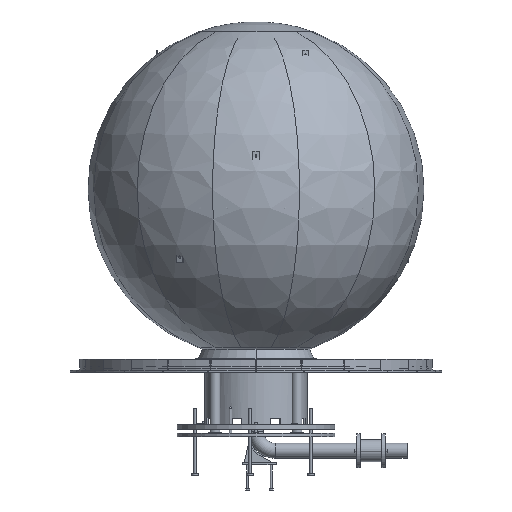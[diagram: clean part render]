
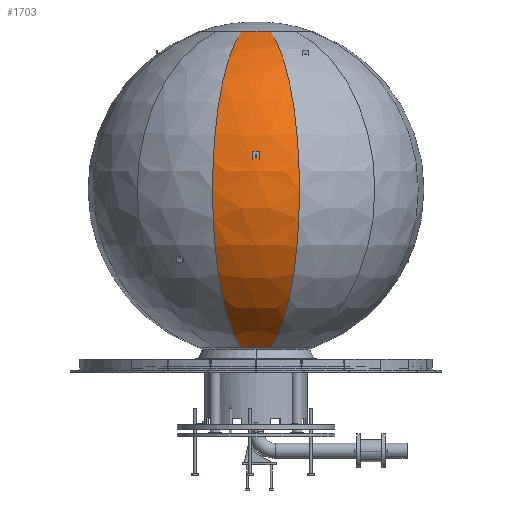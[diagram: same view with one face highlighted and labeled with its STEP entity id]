
A CAD part, front view. The second image highlights one B-rep face of the part: STEP entity #1703.
In plain terms, the highlighted spherical face has radius 1000 mm.
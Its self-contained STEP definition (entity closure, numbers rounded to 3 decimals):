
#1703 = ADVANCED_FACE('',(#1704),#1719,.T.);
#1704 = FACE_BOUND('',#1705,.F.);
#1705 = EDGE_LOOP('',(#1706,#1742,#1771,#1800));
#1706 = ORIENTED_EDGE('',*,*,#1707,.T.);
#1707 = EDGE_CURVE('',#1708,#1710,#1712,.T.);
#1708 = VERTEX_POINT('',#1709);
#1709 = CARTESIAN_POINT('',(-88.521,-330.366,
    1939.693));
#1710 = VERTEX_POINT('',#1711);
#1711 = CARTESIAN_POINT('',(88.521,-330.366,
    1939.693));
#1712 = SURFACE_CURVE('',#1713,(#1718,#1730),.PCURVE_S1.);
#1713 = CIRCLE('',#1714,342.02);
#1714 = AXIS2_PLACEMENT_3D('',#1715,#1716,#1717);
#1715 = CARTESIAN_POINT('',(0.,0.,1939.693));
#1716 = DIRECTION('',(0.,0.,1.));
#1717 = DIRECTION('',(-0.259,-0.966,0.));
#1718 = PCURVE('',#1719,#1724);
#1719 = SPHERICAL_SURFACE('',#1720,1000.);
#1720 = AXIS2_PLACEMENT_3D('',#1721,#1722,#1723);
#1721 = CARTESIAN_POINT('',(0.,0.,1000.
    ));
#1722 = DIRECTION('',(0.,0.,-1.));
#1723 = DIRECTION('',(-0.259,-0.966,0.));
#1724 = DEFINITIONAL_REPRESENTATION('',(#1725),#1729);
#1725 = LINE('',#1726,#1727);
#1726 = CARTESIAN_POINT('',(-0.,-1.222));
#1727 = VECTOR('',#1728,1.);
#1728 = DIRECTION('',(-1.,0.));
#1729 = ( GEOMETRIC_REPRESENTATION_CONTEXT(2) 
PARAMETRIC_REPRESENTATION_CONTEXT() REPRESENTATION_CONTEXT('2D SPACE',''
  ) );
#1730 = PCURVE('',#1731,#1736);
#1731 = CONICAL_SURFACE('',#1732,340.31,0.349);
#1732 = AXIS2_PLACEMENT_3D('',#1733,#1734,#1735);
#1733 = CARTESIAN_POINT('',(0.,0.,1934.994));
#1734 = DIRECTION('',(0.,0.,1.));
#1735 = DIRECTION('',(-0.259,-0.966,0.));
#1736 = DEFINITIONAL_REPRESENTATION('',(#1737),#1741);
#1737 = LINE('',#1738,#1739);
#1738 = CARTESIAN_POINT('',(0.,4.698));
#1739 = VECTOR('',#1740,1.);
#1740 = DIRECTION('',(1.,0.));
#1741 = ( GEOMETRIC_REPRESENTATION_CONTEXT(2) 
PARAMETRIC_REPRESENTATION_CONTEXT() REPRESENTATION_CONTEXT('2D SPACE',''
  ) );
#1742 = ORIENTED_EDGE('',*,*,#1743,.T.);
#1743 = EDGE_CURVE('',#1710,#1744,#1746,.T.);
#1744 = VERTEX_POINT('',#1745);
#1745 = CARTESIAN_POINT('',(88.521,-330.366,
    60.307));
#1746 = SURFACE_CURVE('',#1747,(#1752,#1759),.PCURVE_S1.);
#1747 = CIRCLE('',#1748,1000.);
#1748 = AXIS2_PLACEMENT_3D('',#1749,#1750,#1751);
#1749 = CARTESIAN_POINT('',(0.,0.,1000.)
  );
#1750 = DIRECTION('',(0.966,0.259,0.)
  );
#1751 = DIRECTION('',(0.089,-0.33,0.94)
  );
#1752 = PCURVE('',#1719,#1753);
#1753 = DEFINITIONAL_REPRESENTATION('',(#1754),#1758);
#1754 = LINE('',#1755,#1756);
#1755 = CARTESIAN_POINT('',(-0.524,-1.222));
#1756 = VECTOR('',#1757,1.);
#1757 = DIRECTION('',(-0.,1.));
#1758 = ( GEOMETRIC_REPRESENTATION_CONTEXT(2) 
PARAMETRIC_REPRESENTATION_CONTEXT() REPRESENTATION_CONTEXT('2D SPACE',''
  ) );
#1759 = PCURVE('',#1760,#1765);
#1760 = PLANE('',#1761);
#1761 = AXIS2_PLACEMENT_3D('',#1762,#1763,#1764);
#1762 = CARTESIAN_POINT('',(187.264,-698.88,1000.));
#1763 = DIRECTION('',(0.966,0.259,0.));
#1764 = DIRECTION('',(0.,0.,1.));
#1765 = DEFINITIONAL_REPRESENTATION('',(#1766),#1770);
#1766 = CIRCLE('',#1767,1000.);
#1767 = AXIS2_PLACEMENT_2D('',#1768,#1769);
#1768 = CARTESIAN_POINT('',(0.,-723.533));
#1769 = DIRECTION('',(0.94,0.342));
#1770 = ( GEOMETRIC_REPRESENTATION_CONTEXT(2) 
PARAMETRIC_REPRESENTATION_CONTEXT() REPRESENTATION_CONTEXT('2D SPACE',''
  ) );
#1771 = ORIENTED_EDGE('',*,*,#1772,.F.);
#1772 = EDGE_CURVE('',#1773,#1744,#1775,.T.);
#1773 = VERTEX_POINT('',#1774);
#1774 = CARTESIAN_POINT('',(-88.521,-330.366,
    60.307));
#1775 = SURFACE_CURVE('',#1776,(#1781,#1788),.PCURVE_S1.);
#1776 = CIRCLE('',#1777,342.02);
#1777 = AXIS2_PLACEMENT_3D('',#1778,#1779,#1780);
#1778 = CARTESIAN_POINT('',(0.,0.,60.307));
#1779 = DIRECTION('',(0.,0.,1.));
#1780 = DIRECTION('',(-0.259,-0.966,0.));
#1781 = PCURVE('',#1719,#1782);
#1782 = DEFINITIONAL_REPRESENTATION('',(#1783),#1787);
#1783 = LINE('',#1784,#1785);
#1784 = CARTESIAN_POINT('',(-0.,1.222));
#1785 = VECTOR('',#1786,1.);
#1786 = DIRECTION('',(-1.,0.));
#1787 = ( GEOMETRIC_REPRESENTATION_CONTEXT(2) 
PARAMETRIC_REPRESENTATION_CONTEXT() REPRESENTATION_CONTEXT('2D SPACE',''
  ) );
#1788 = PCURVE('',#1789,#1794);
#1789 = CONICAL_SURFACE('',#1790,342.02,0.349);
#1790 = AXIS2_PLACEMENT_3D('',#1791,#1792,#1793);
#1791 = CARTESIAN_POINT('',(0.,0.,60.307));
#1792 = DIRECTION('',(-0.,-0.,-1.));
#1793 = DIRECTION('',(-0.259,-0.966,0.));
#1794 = DEFINITIONAL_REPRESENTATION('',(#1795),#1799);
#1795 = LINE('',#1796,#1797);
#1796 = CARTESIAN_POINT('',(-0.,-0.));
#1797 = VECTOR('',#1798,1.);
#1798 = DIRECTION('',(-1.,-0.));
#1799 = ( GEOMETRIC_REPRESENTATION_CONTEXT(2) 
PARAMETRIC_REPRESENTATION_CONTEXT() REPRESENTATION_CONTEXT('2D SPACE',''
  ) );
#1800 = ORIENTED_EDGE('',*,*,#1801,.F.);
#1801 = EDGE_CURVE('',#1708,#1773,#1802,.T.);
#1802 = SURFACE_CURVE('',#1803,(#1808,#1815),.PCURVE_S1.);
#1803 = CIRCLE('',#1804,1000.);
#1804 = AXIS2_PLACEMENT_3D('',#1805,#1806,#1807);
#1805 = CARTESIAN_POINT('',(0.,0.,1000.
    ));
#1806 = DIRECTION('',(0.966,-0.259,0.
    ));
#1807 = DIRECTION('',(-0.089,-0.33,0.94
    ));
#1808 = PCURVE('',#1719,#1809);
#1809 = DEFINITIONAL_REPRESENTATION('',(#1810),#1814);
#1810 = LINE('',#1811,#1812);
#1811 = CARTESIAN_POINT('',(-0.,-1.222));
#1812 = VECTOR('',#1813,1.);
#1813 = DIRECTION('',(-0.,1.));
#1814 = ( GEOMETRIC_REPRESENTATION_CONTEXT(2) 
PARAMETRIC_REPRESENTATION_CONTEXT() REPRESENTATION_CONTEXT('2D SPACE',''
  ) );
#1815 = PCURVE('',#1816,#1821);
#1816 = PLANE('',#1817);
#1817 = AXIS2_PLACEMENT_3D('',#1818,#1819,#1820);
#1818 = CARTESIAN_POINT('',(-187.264,-698.88,1000.));
#1819 = DIRECTION('',(0.966,-0.259,0.));
#1820 = DIRECTION('',(0.,0.,1.));
#1821 = DEFINITIONAL_REPRESENTATION('',(#1822),#1826);
#1822 = CIRCLE('',#1823,1000.);
#1823 = AXIS2_PLACEMENT_2D('',#1824,#1825);
#1824 = CARTESIAN_POINT('',(0.,-723.533));
#1825 = DIRECTION('',(0.94,0.342));
#1826 = ( GEOMETRIC_REPRESENTATION_CONTEXT(2) 
PARAMETRIC_REPRESENTATION_CONTEXT() REPRESENTATION_CONTEXT('2D SPACE',''
  ) );
